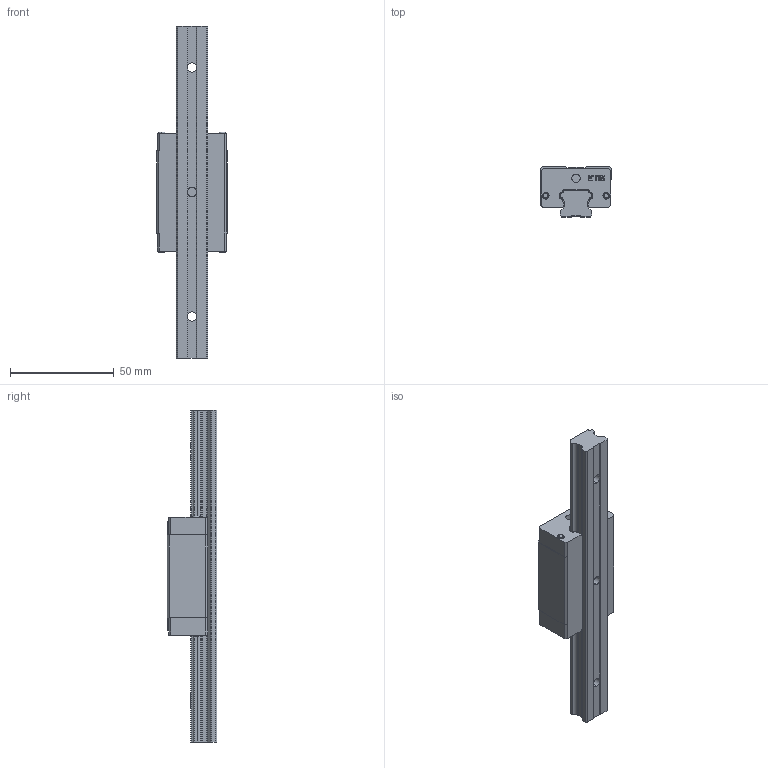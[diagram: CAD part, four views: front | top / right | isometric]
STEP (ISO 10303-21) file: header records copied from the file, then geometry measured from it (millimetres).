
FILE_DESCRIPTION (( 'STEP AP214' ), '1' );
FILE_NAME ('7.1069 Lineaarikelkka ETH15CA.STEP', '2026-03-13T08:36:03', ( '' ), ( '' ), 'SwSTEP 2.0', 'SolidWorks 2025', '' );
FILE_SCHEMA (( 'AUTOMOTIVE_DESIGN' ));
Length unit declared in the file: millimetre
Products named in the file (3): ET15_RAIL; 7.1069 Lineaarikelkka ETH15CA; ETH15CA_BLOCK
Assembly tree (2 placements, depth 2):
  7.1069 Lineaarikelkka ETH15CA
    ETH15CA_BLOCK
    ET15_RAIL
Bounding box: 34 x 24 x 160 mm (x, y, z)
Volume: 55604.2 mm3; surface area: 18685.4 mm2
Topology: 2 solids, 2 shells, 327 faces, 912 edges, 611 vertices
Faces by surface type: plane 208, cylinder 94, bspline 17, torus 8
Entity records: 15398 total; most frequent: CARTESIAN_POINT 3204, ORIENTED_EDGE 1824, DIRECTION 1704, EDGE_CURVE 912, VECTOR 644, LINE 644, VERTEX_POINT 611, AXIS2_PLACEMENT_3D 530
